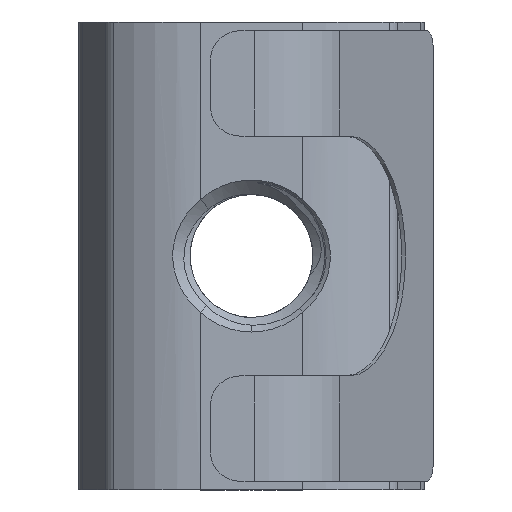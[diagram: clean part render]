
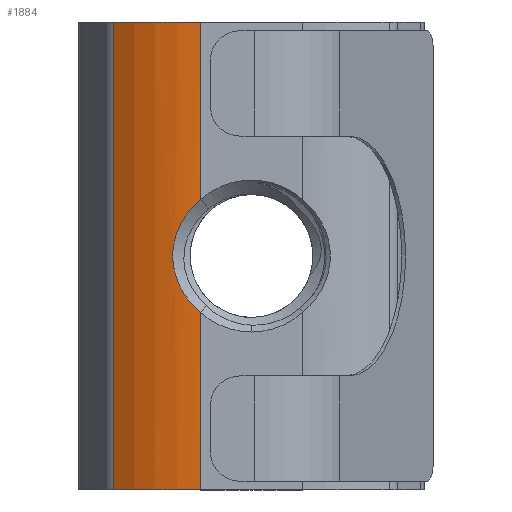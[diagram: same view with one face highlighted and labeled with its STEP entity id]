
A CAD part, front view. The second image highlights one B-rep face of the part: STEP entity #1884.
In plain terms, the highlighted cylindrical face has radius 5 mm (diameter 10 mm), a partial arc.
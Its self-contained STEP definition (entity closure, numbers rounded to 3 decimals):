
#76 = CARTESIAN_POINT ( 'NONE',  ( -1.75, 0., 8. ) ) ;
#100 = CARTESIAN_POINT ( 'NONE',  ( -4.707, 0.968, 8. ) ) ;
#104 = DIRECTION ( 'NONE',  ( 0., 0., -1. ) ) ;
#131 = ORIENTED_EDGE ( 'NONE', *, *, #4202, .F. ) ;
#174 = B_SPLINE_CURVE_WITH_KNOTS ( 'NONE', 3,
 ( #2088, #5685, #5748, #3075, #1169, #5301, #2564, #2498, #5274, #3936, #1704, #3990, #3431, #1618, #3514, #368 ),
 .UNSPECIFIED., .F., .F.,
 ( 4, 2, 2, 2, 2, 2, 2, 4 ),
 ( 0., 0.125, 0.25, 0.375, 0.5, 0.625, 0.75, 1. ),
 .UNSPECIFIED. ) ;
#315 = DIRECTION ( 'NONE',  ( -1., 0., 0. ) ) ;
#368 = CARTESIAN_POINT ( 'NONE',  ( -1.75, 0., 1.923 ) ) ;
#619 = DIRECTION ( 'NONE',  ( 0., 0., 1. ) ) ;
#800 = CARTESIAN_POINT ( 'NONE',  ( -1.75, 0., 8. ) ) ;
#848 = CARTESIAN_POINT ( 'NONE',  ( -4.707, 0.968, -8. ) ) ;
#1025 = VERTEX_POINT ( 'NONE', #4664 ) ;
#1076 = EDGE_LOOP ( 'NONE', ( #131, #2816, #5872, #1579, #2849, #5056 ) ) ;
#1169 = CARTESIAN_POINT ( 'NONE',  ( -2.367, 0.038, -1.215 ) ) ;
#1579 = ORIENTED_EDGE ( 'NONE', *, *, #3560, .F. ) ;
#1618 = CARTESIAN_POINT ( 'NONE',  ( -2.286, 0.026, 1.381 ) ) ;
#1640 = DIRECTION ( 'NONE',  ( 0., 0., 1. ) ) ;
#1704 = CARTESIAN_POINT ( 'NONE',  ( -2.673, 0.086, 0.361 ) ) ;
#1754 = AXIS2_PLACEMENT_3D ( 'NONE', #3768, #619, #3382 ) ;
#1817 = VECTOR ( 'NONE', #5761, 1000. ) ;
#1848 = EDGE_CURVE ( 'NONE', #4916, #1025, #2895, .T. ) ;
#1884 = ADVANCED_FACE ( 'NONE', ( #2572 ), #3497, .T. ) ;
#1971 = VERTEX_POINT ( 'NONE', #848 ) ;
#1985 = VERTEX_POINT ( 'NONE', #2240 ) ;
#2088 = CARTESIAN_POINT ( 'NONE',  ( -1.75, 0., -1.923 ) ) ;
#2240 = CARTESIAN_POINT ( 'NONE',  ( -1.75, 0., -1.923 ) ) ;
#2456 = EDGE_CURVE ( 'NONE', #4171, #1971, #3397, .T. ) ;
#2498 = CARTESIAN_POINT ( 'NONE',  ( -2.674, 0.086, -0.361 ) ) ;
#2564 = CARTESIAN_POINT ( 'NONE',  ( -2.59, 0.071, -0.716 ) ) ;
#2569 = EDGE_CURVE ( 'NONE', #1985, #1025, #174, .T. ) ;
#2572 = FACE_OUTER_BOUND ( 'NONE', #1076, .T. ) ;
#2816 = ORIENTED_EDGE ( 'NONE', *, *, #2569, .T. ) ;
#2849 = ORIENTED_EDGE ( 'NONE', *, *, #2456, .T. ) ;
#2895 = LINE ( 'NONE', #76, #4793 ) ;
#3075 = CARTESIAN_POINT ( 'NONE',  ( -2.266, 0.025, -1.374 ) ) ;
#3211 = CARTESIAN_POINT ( 'NONE',  ( -1.75, 0., -8. ) ) ;
#3382 = DIRECTION ( 'NONE',  ( -1., 0., 0. ) ) ;
#3397 = LINE ( 'NONE', #100, #5861 ) ;
#3431 = CARTESIAN_POINT ( 'NONE',  ( -2.529, 0.06, 0.885 ) ) ;
#3497 = CYLINDRICAL_SURFACE ( 'NONE', #5173, 5. ) ;
#3505 = DIRECTION ( 'NONE',  ( -1., 0., 0. ) ) ;
#3514 = CARTESIAN_POINT ( 'NONE',  ( -2.047, 0., 1.679 ) ) ;
#3528 = LINE ( 'NONE', #800, #1817 ) ;
#3560 = EDGE_CURVE ( 'NONE', #4171, #4916, #5457, .T. ) ;
#3768 = CARTESIAN_POINT ( 'NONE',  ( -1.75, 5., -8. ) ) ;
#3889 = EDGE_CURVE ( 'NONE', #1971, #5366, #4311, .T. ) ;
#3911 = DIRECTION ( 'NONE',  ( 0., 0., -1. ) ) ;
#3936 = CARTESIAN_POINT ( 'NONE',  ( -2.695, 0.09, 0.179 ) ) ;
#3990 = CARTESIAN_POINT ( 'NONE',  ( -2.591, 0.071, 0.714 ) ) ;
#4126 = AXIS2_PLACEMENT_3D ( 'NONE', #4925, #1640, #3505 ) ;
#4171 = VERTEX_POINT ( 'NONE', #5814 ) ;
#4202 = EDGE_CURVE ( 'NONE', #1985, #5366, #3528, .T. ) ;
#4219 = CARTESIAN_POINT ( 'NONE',  ( -1.75, 0., 8. ) ) ;
#4284 = DIRECTION ( 'NONE',  ( 0., 0., -1. ) ) ;
#4311 = CIRCLE ( 'NONE', #1754, 5. ) ;
#4385 = CARTESIAN_POINT ( 'NONE',  ( -1.75, 5., 8. ) ) ;
#4664 = CARTESIAN_POINT ( 'NONE',  ( -1.75, 0., 1.923 ) ) ;
#4793 = VECTOR ( 'NONE', #104, 1000. ) ;
#4916 = VERTEX_POINT ( 'NONE', #4219 ) ;
#4925 = CARTESIAN_POINT ( 'NONE',  ( -1.75, 5., 8. ) ) ;
#5056 = ORIENTED_EDGE ( 'NONE', *, *, #3889, .T. ) ;
#5173 = AXIS2_PLACEMENT_3D ( 'NONE', #4385, #3911, #315 ) ;
#5274 = CARTESIAN_POINT ( 'NONE',  ( -2.694, 0.09, -0.18 ) ) ;
#5301 = CARTESIAN_POINT ( 'NONE',  ( -2.529, 0.06, -0.886 ) ) ;
#5366 = VERTEX_POINT ( 'NONE', #3211 ) ;
#5457 = CIRCLE ( 'NONE', #4126, 5. ) ;
#5685 = CARTESIAN_POINT ( 'NONE',  ( -1.899, 0., -1.801 ) ) ;
#5748 = CARTESIAN_POINT ( 'NONE',  ( -2.032, 0.007, -1.666 ) ) ;
#5761 = DIRECTION ( 'NONE',  ( 0., 0., -1. ) ) ;
#5814 = CARTESIAN_POINT ( 'NONE',  ( -4.707, 0.968, 8. ) ) ;
#5861 = VECTOR ( 'NONE', #4284, 1000. ) ;
#5872 = ORIENTED_EDGE ( 'NONE', *, *, #1848, .F. ) ;
